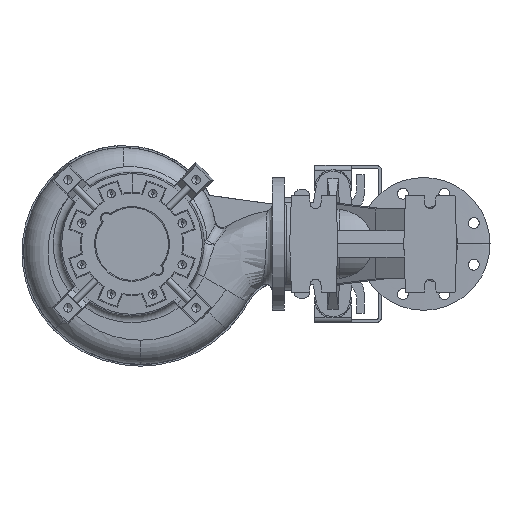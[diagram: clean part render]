
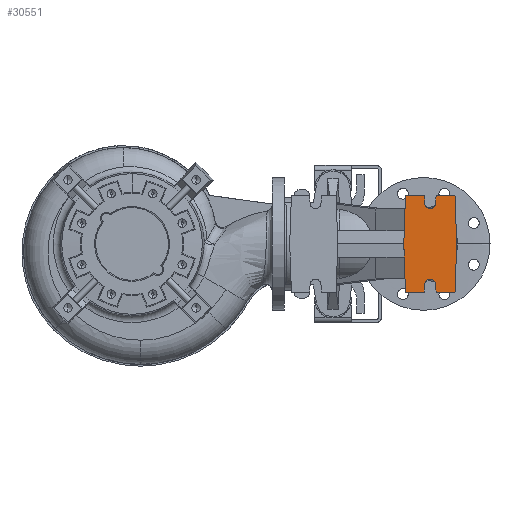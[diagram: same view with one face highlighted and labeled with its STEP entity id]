
A CAD part, front view. The second image highlights one B-rep face of the part: STEP entity #30551.
In plain terms, the highlighted planar face has unit normal (0, -1, 0).
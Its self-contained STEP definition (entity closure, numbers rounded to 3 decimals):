
#60 = LINE ( 'NONE', #12791, #38326 ) ;
#89 = EDGE_CURVE ( 'NONE', #29418, #1356, #11282, .T. ) ;
#1356 = VERTEX_POINT ( 'NONE', #15769 ) ;
#2459 = CARTESIAN_POINT ( 'NONE',  ( 505.926, -332., -123.087 ) ) ;
#3275 = CARTESIAN_POINT ( 'NONE',  ( 502.988, -332., -67.029 ) ) ;
#3521 = DIRECTION ( 'NONE',  ( -0.052, 0., -0.999 ) ) ;
#3806 = ORIENTED_EDGE ( 'NONE', *, *, #12392, .T. ) ;
#3965 = ORIENTED_EDGE ( 'NONE', *, *, #30829, .F. ) ;
#4194 = LINE ( 'NONE', #22817, #35669 ) ;
#4661 = VERTEX_POINT ( 'NONE', #11153 ) ;
#4898 = VERTEX_POINT ( 'NONE', #19697 ) ;
#5158 = VECTOR ( 'NONE', #21445, 1000. ) ;
#6102 = CARTESIAN_POINT ( 'NONE',  ( 533.612, -332., 119.745 ) ) ;
#6110 = CARTESIAN_POINT ( 'NONE',  ( 482.41, -332., -116.683 ) ) ;
#7234 = ORIENTED_EDGE ( 'NONE', *, *, #89, .F. ) ;
#8006 = VECTOR ( 'NONE', #24377, 1000. ) ;
#8431 = LINE ( 'NONE', #2459, #8006 ) ;
#8561 = CARTESIAN_POINT ( 'NONE',  ( 494., -332., -67.5 ) ) ;
#9450 = ORIENTED_EDGE ( 'NONE', *, *, #26334, .T. ) ;
#9766 = CARTESIAN_POINT ( 'NONE',  ( 454.537, -332., -124.019 ) ) ;
#9837 = EDGE_CURVE ( 'NONE', #1356, #21524, #40337, .T. ) ;
#10314 = DIRECTION ( 'NONE',  ( 0., 1., 0. ) ) ;
#10663 = VECTOR ( 'NONE', #21856, 1000. ) ;
#11153 = CARTESIAN_POINT ( 'NONE',  ( 503.667, -332., 80. ) ) ;
#11282 = CIRCLE ( 'NONE', #24314, 9. ) ;
#11482 = VERTEX_POINT ( 'NONE', #36613 ) ;
#11837 = DIRECTION ( 'NONE',  ( -1., 0., 0. ) ) ;
#12392 = EDGE_CURVE ( 'NONE', #4661, #4898, #37539, .T. ) ;
#12736 = CARTESIAN_POINT ( 'NONE',  ( 533.612, -332., -119.745 ) ) ;
#12791 = CARTESIAN_POINT ( 'NONE',  ( 555.27, -332., 80. ) ) ;
#13076 = CARTESIAN_POINT ( 'NONE',  ( 555.27, -332., -80. ) ) ;
#13166 = ORIENTED_EDGE ( 'NONE', *, *, #31819, .F. ) ;
#13194 = CIRCLE ( 'NONE', #38699, 9. ) ;
#13593 = ORIENTED_EDGE ( 'NONE', *, *, #21424, .F. ) ;
#13832 = DIRECTION ( 'NONE',  ( -0.035, 0., -0.999 ) ) ;
#14207 = VECTOR ( 'NONE', #3521, 1000. ) ;
#14459 = FACE_OUTER_BOUND ( 'NONE', #19120, .T. ) ;
#14577 = CARTESIAN_POINT ( 'NONE',  ( 535., -332., -80. ) ) ;
#14664 = EDGE_CURVE ( 'NONE', #34351, #18769, #29977, .T. ) ;
#15268 = CARTESIAN_POINT ( 'NONE',  ( 555.27, -332., 80. ) ) ;
#15271 = CARTESIAN_POINT ( 'NONE',  ( 535., -332., 80. ) ) ;
#15769 = CARTESIAN_POINT ( 'NONE',  ( 485.012, -332., -67.029 ) ) ;
#16034 = VERTEX_POINT ( 'NONE', #20129 ) ;
#16083 = EDGE_CURVE ( 'NONE', #16034, #26942, #4194, .T. ) ;
#16143 = LINE ( 'NONE', #13076, #39453 ) ;
#16270 = VECTOR ( 'NONE', #24611, 1000. ) ;
#16312 = ORIENTED_EDGE ( 'NONE', *, *, #37365, .T. ) ;
#16458 = VERTEX_POINT ( 'NONE', #30270 ) ;
#16479 = DIRECTION ( 'NONE',  ( -0.052, 0., 0.999 ) ) ;
#16603 = EDGE_CURVE ( 'NONE', #11482, #18769, #38035, .T. ) ;
#17764 = CARTESIAN_POINT ( 'NONE',  ( 555.27, -332., -80. ) ) ;
#17987 = VERTEX_POINT ( 'NONE', #14577 ) ;
#18769 = VERTEX_POINT ( 'NONE', #30172 ) ;
#19120 = EDGE_LOOP ( 'NONE', ( #9450, #34533, #3806, #29997, #38721, #13593, #37947, #24808, #16312, #39589, #7234, #3965, #30074, #13166 ) ) ;
#19697 = CARTESIAN_POINT ( 'NONE',  ( 502.988, -332., 67.029 ) ) ;
#19861 = VECTOR ( 'NONE', #38449, 1000. ) ;
#20129 = CARTESIAN_POINT ( 'NONE',  ( 485.012, -332., 67.029 ) ) ;
#21424 = EDGE_CURVE ( 'NONE', #34351, #26942, #60, .T. ) ;
#21445 = DIRECTION ( 'NONE',  ( -0.035, 0., 0.999 ) ) ;
#21524 = VERTEX_POINT ( 'NONE', #25882 ) ;
#21856 = DIRECTION ( 'NONE',  ( -0.052, 0., -0.999 ) ) ;
#21947 = CARTESIAN_POINT ( 'NONE',  ( 505.926, -332., 123.087 ) ) ;
#22011 = VECTOR ( 'NONE', #13832, 1000. ) ;
#22502 = CARTESIAN_POINT ( 'NONE',  ( 555.27, -332., 120.501 ) ) ;
#22817 = CARTESIAN_POINT ( 'NONE',  ( 482.41, -332., 116.683 ) ) ;
#23205 = DIRECTION ( 'NONE',  ( 1., 0., 0. ) ) ;
#23853 = DIRECTION ( 'NONE',  ( 0., 1., 0. ) ) ;
#24314 = AXIS2_PLACEMENT_3D ( 'NONE', #8561, #32929, #11837 ) ;
#24377 = DIRECTION ( 'NONE',  ( -0.052, 0., 0.999 ) ) ;
#24611 = DIRECTION ( 'NONE',  ( -0.035, 0., -0.999 ) ) ;
#24808 = ORIENTED_EDGE ( 'NONE', *, *, #16603, .F. ) ;
#25265 = DIRECTION ( 'NONE',  ( 1., 0., 0. ) ) ;
#25552 = DIRECTION ( 'NONE',  ( 1., 0., 0. ) ) ;
#25882 = CARTESIAN_POINT ( 'NONE',  ( 484.333, -332., -80. ) ) ;
#26283 = CARTESIAN_POINT ( 'NONE',  ( 494., -332., 67.5 ) ) ;
#26334 = EDGE_CURVE ( 'NONE', #36046, #30607, #37236, .T. ) ;
#26942 = VERTEX_POINT ( 'NONE', #39167 ) ;
#27167 = DIRECTION ( 'NONE',  ( 1., 0., 0. ) ) ;
#28231 = AXIS2_PLACEMENT_3D ( 'NONE', #22502, #23853, #29801 ) ;
#29418 = VERTEX_POINT ( 'NONE', #3275 ) ;
#29432 = VECTOR ( 'NONE', #34302, 1000. ) ;
#29801 = DIRECTION ( 'NONE',  ( 1., 0., 0. ) ) ;
#29977 = LINE ( 'NONE', #32864, #22011 ) ;
#29997 = ORIENTED_EDGE ( 'NONE', *, *, #30143, .T. ) ;
#30074 = ORIENTED_EDGE ( 'NONE', *, *, #39242, .T. ) ;
#30143 = EDGE_CURVE ( 'NONE', #4898, #16034, #13194, .T. ) ;
#30172 = CARTESIAN_POINT ( 'NONE',  ( 450.206, -332., 0. ) ) ;
#30194 = VECTOR ( 'NONE', #27167, 1000. ) ;
#30270 = CARTESIAN_POINT ( 'NONE',  ( 503.667, -332., -80. ) ) ;
#30551 = ADVANCED_FACE ( 'NONE', ( #14459 ), #39454, .F. ) ;
#30607 = VERTEX_POINT ( 'NONE', #15271 ) ;
#30829 = EDGE_CURVE ( 'NONE', #16458, #29418, #8431, .T. ) ;
#30988 = LINE ( 'NONE', #12736, #16270 ) ;
#31819 = EDGE_CURVE ( 'NONE', #36046, #17987, #30988, .T. ) ;
#32864 = CARTESIAN_POINT ( 'NONE',  ( 454.537, -332., 124.019 ) ) ;
#32929 = DIRECTION ( 'NONE',  ( 0., -1., 0. ) ) ;
#33336 = LINE ( 'NONE', #17764, #30194 ) ;
#34302 = DIRECTION ( 'NONE',  ( 1., 0., 0. ) ) ;
#34351 = VERTEX_POINT ( 'NONE', #39665 ) ;
#34533 = ORIENTED_EDGE ( 'NONE', *, *, #35187, .F. ) ;
#35187 = EDGE_CURVE ( 'NONE', #4661, #30607, #37580, .T. ) ;
#35669 = VECTOR ( 'NONE', #16479, 1000. ) ;
#36046 = VERTEX_POINT ( 'NONE', #36483 ) ;
#36483 = CARTESIAN_POINT ( 'NONE',  ( 537.794, -332., 0. ) ) ;
#36613 = CARTESIAN_POINT ( 'NONE',  ( 453., -332., -80. ) ) ;
#37236 = LINE ( 'NONE', #6102, #5158 ) ;
#37365 = EDGE_CURVE ( 'NONE', #11482, #21524, #33336, .T. ) ;
#37539 = LINE ( 'NONE', #21947, #14207 ) ;
#37580 = LINE ( 'NONE', #15268, #29432 ) ;
#37947 = ORIENTED_EDGE ( 'NONE', *, *, #14664, .T. ) ;
#38035 = LINE ( 'NONE', #9766, #19861 ) ;
#38326 = VECTOR ( 'NONE', #25265, 1000. ) ;
#38449 = DIRECTION ( 'NONE',  ( -0.035, 0., 0.999 ) ) ;
#38699 = AXIS2_PLACEMENT_3D ( 'NONE', #26283, #10314, #23205 ) ;
#38721 = ORIENTED_EDGE ( 'NONE', *, *, #16083, .T. ) ;
#39167 = CARTESIAN_POINT ( 'NONE',  ( 484.333, -332., 80. ) ) ;
#39242 = EDGE_CURVE ( 'NONE', #16458, #17987, #16143, .T. ) ;
#39453 = VECTOR ( 'NONE', #25552, 1000. ) ;
#39454 = PLANE ( 'NONE',  #28231 ) ;
#39589 = ORIENTED_EDGE ( 'NONE', *, *, #9837, .F. ) ;
#39665 = CARTESIAN_POINT ( 'NONE',  ( 453., -332., 80. ) ) ;
#40337 = LINE ( 'NONE', #6110, #10663 ) ;
